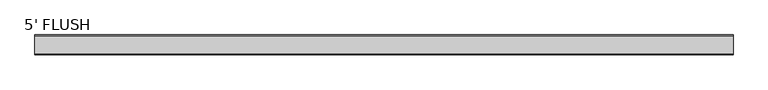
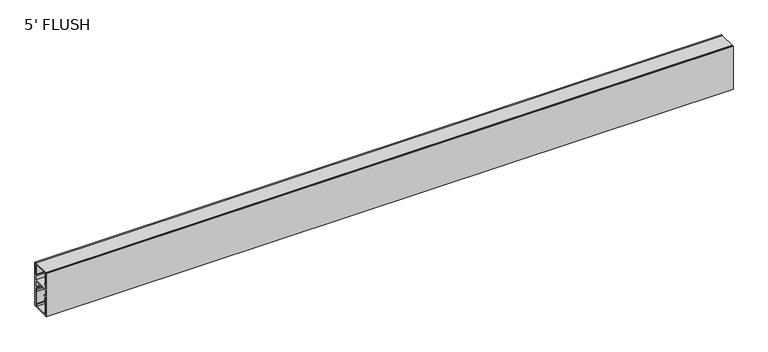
"""IFC4 building model written with IfcOpenShell, lengths in millimetres: light fixture geometry, SF-LD-BK : 5' FLUSH."""

from ifc_helpers import new_model, si_unit, point, frame, frame_2d, origin, place, context, project, spatial, polyline, circle_curve, trimmed, segment, composite_curve, outline, extrude, source, transform, mapped, element, save


def light_fixture_5_flush_33ba2443(model_context):
    return source(origin(), model_context, "Body", "SweptSolid", [
        extrude(outline(polyline([(-14.217015, -609.6), (14.2170856, -609.6), (14.2170856, -628.8616667), (12.947015, -628.8616667), (12.947015, -610.5876367), (-12.947015, -610.5876367), (-12.947015, -628.8616667), (-14.217015, -628.8616667), (-14.217015, -609.6)])), frame((-1149.4, 0.0, 0.0), z_axis=(1.0, 0.0, 0.0), x_axis=(0.0, 1.0, 0.0)), (0.0, 0.0, 1.0), 1149.4),
        extrude(outline(polyline([(16.4919982, -609.6), (16.4919982, -685.7997212), (14.4814042, -685.7997212), (14.4814042, -652.2511544), (11.3066494, -652.2511544), (11.3066494, -650.4868413), (14.4814042, -650.4868413), (14.4814042, -641.35007), (-14.4814042, -641.35007), (-14.4814042, -650.4868413), (-11.3066494, -650.4868413), (-11.3066494, -652.2511544), (-14.4814042, -652.2511544), (-14.4814042, -685.8), (-16.5273013, -685.8), (-16.5273013, -609.6), (-14.4814042, -609.6), (-14.4814042, -629.6378556), (-12.7179317, -629.6378556), (-12.7179317, -631.4374717), (-14.4814042, -631.4374717), (-14.4814042, -639.0570515), (14.4814042, -639.0570515), (14.4814042, -631.4374717), (12.6826286, -631.4374717), (12.6826286, -629.6378556), (14.4814042, -629.6378556), (14.4814042, -609.6), (16.4919982, -609.6)])), frame((-1149.4, 0.0, 0.0), z_axis=(1.0, 0.0, 0.0), x_axis=(0.0, 1.0, 0.0)), (0.0, 0.0, 1.0), 1149.4),
        extrude(outline(composite_curve([segment(polyline([(14.2364085, -684.4823458), (14.2364085, -685.7515686), (-14.2013395, -685.7515686), (-14.2013395, -684.4823458), (-12.9681897, -684.4823458), (-12.9681897, -681.697718), (-14.2013395, -681.697718), (-14.2013395, -658.6298078)]), True, "CONTINUOUS"), segment(trimmed(circle_curve(frame_2d((-15.2677071, -657.498738)), 1.5544962), [point((-14.2013395, -658.6298078))], [point((-14.2013395, -656.3676683))], True, "CARTESIAN"), True, "CONTINUOUS"), segment(trimmed(circle_curve(frame_2d((-1.5482091, -655.9407284)), 12.6603312), [point((-14.2013395, -656.3676683))], [point((-13.8299858, -652.867953))], False, "CARTESIAN"), True, "CONTINUOUS"), segment(polyline([(-13.8299858, -652.867953), (-12.9281268, -652.867953), (-12.9281268, -655.8728)]), True, "CONTINUOUS"), segment(trimmed(circle_curve(frame_2d((-15.3387278, -657.4813245)), 2.8979905), [point((-12.9281268, -655.8728))], [point((-12.9289367, -659.0910622))], False, "CARTESIAN"), True, "CONTINUOUS"), segment(polyline([(-12.9289367, -659.0910622), (-12.9289367, -680.4290689), (-11.6993255, -680.4290689), (-11.6993255, -684.4823458), (11.6993255, -684.4823458), (11.6993255, -680.4290689), (12.9631957, -680.4290689), (12.9631957, -659.0898491)]), True, "CONTINUOUS"), segment(trimmed(circle_curve(frame_2d((15.3737968, -657.4813245)), 2.8979905), [point((12.9631957, -659.0898491))], [point((12.9631957, -655.8728))], False, "CARTESIAN"), True, "CONTINUOUS"), segment(polyline([(12.9631957, -655.8728), (12.9631957, -652.867953), (13.8650547, -652.867953)]), True, "CONTINUOUS"), segment(trimmed(circle_curve(frame_2d((1.583278, -655.9407284)), 12.6603312), [point((13.8650547, -652.867953))], [point((14.2364085, -656.3676683))], False, "CARTESIAN"), True, "CONTINUOUS"), segment(trimmed(circle_curve(frame_2d((15.302776, -657.498738)), 1.5544962), [point((14.2364085, -656.3676683))], [point((14.2364085, -658.6298078))], True, "CARTESIAN"), True, "CONTINUOUS"), segment(polyline([(14.2364085, -658.6298078), (14.2364085, -681.697718), (12.9681897, -681.697718), (12.9681897, -684.4823458), (14.2364085, -684.4823458)]), True, "CONTINUOUS")], self_intersect=False)), frame((-1149.4, 0.0, 0.0), z_axis=(1.0, 0.0, 0.0), x_axis=(0.0, 1.0, 0.0)), (0.0, 0.0, 1.0), 1149.4),
    ])


if __name__ == "__main__":
    model = new_model("IFC4")
    model_context = context("Model", 3, world=origin())
    ifc_project = project(units=[si_unit("LENGTHUNIT", "METRE", prefix="MILLI")], contexts=[model_context])
    site = spatial("IfcSite", under=ifc_project)
    building = spatial("IfcBuilding", under=site)
    placement = place(None, origin())
    light_fixture_5_flush_shape = light_fixture_5_flush_33ba2443(model_context)
    element("IfcLightFixture", 1, ObjectType="SF-LD-BK : 5' FLUSH", at=placement, inside=building, context=model_context, shape_type="MappedRepresentation", body=[
        mapped(light_fixture_5_flush_shape, transform((0.0, 0.0, 0.0), x_axis=(1.0, 0.0, 0.0), y_axis=(0.0, 1.0, 0.0), z_axis=(0.0, 0.0, 1.0))),
    ])
    save(model, "model.ifc")
